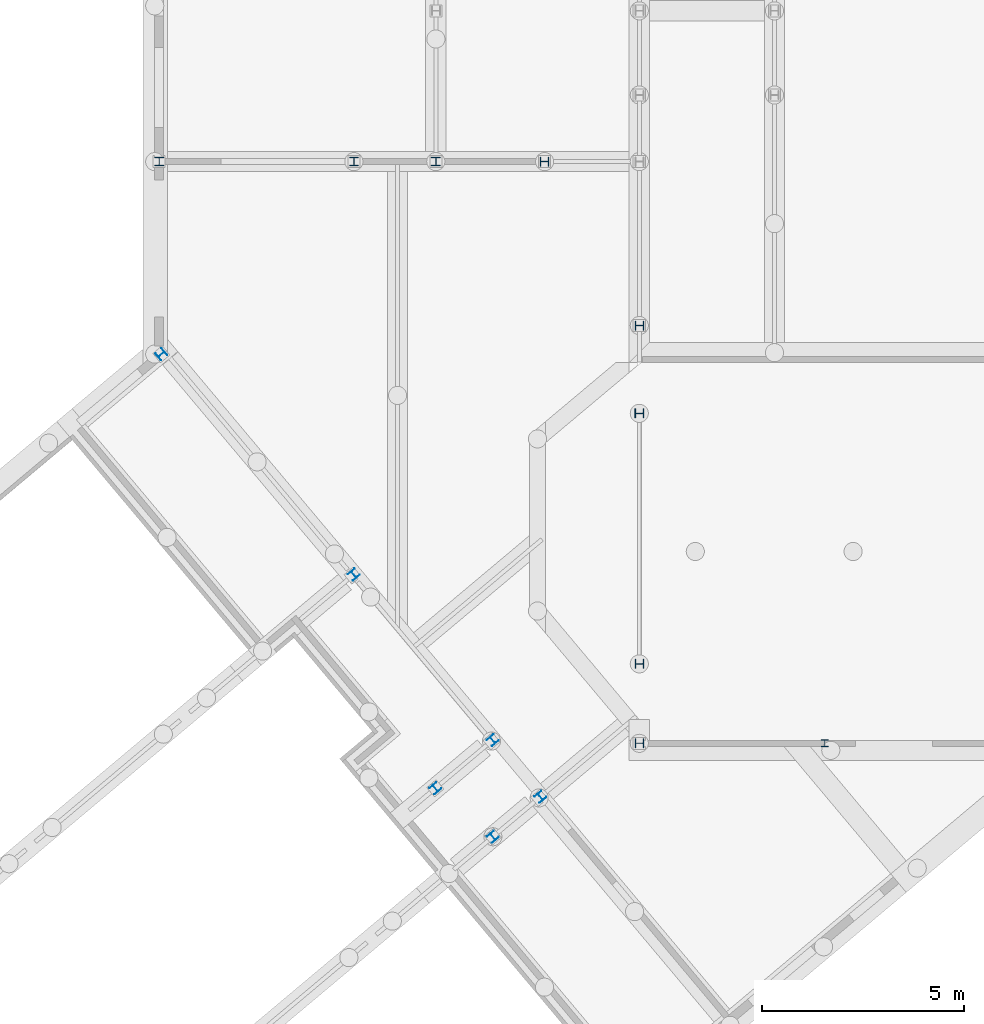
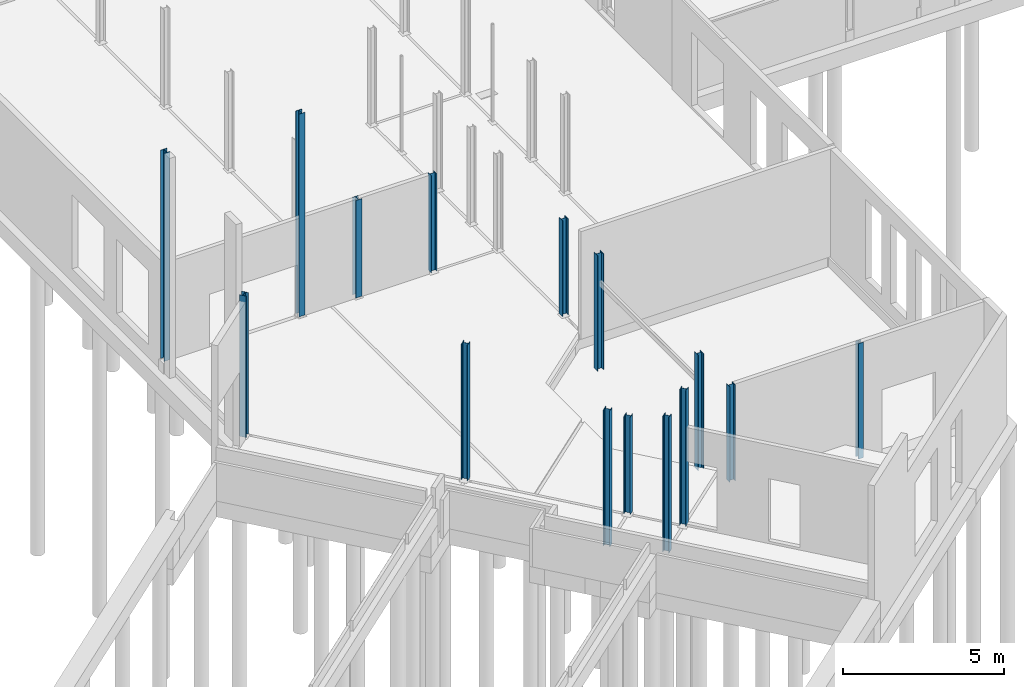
# One storey, part 2 of 18: 15 columns.
"""IFC2X3 building model written with IfcOpenShell, lengths in millimetres."""

import ifcopenshell
import ifcopenshell.guid

model = None  # the IFC model being written
_history = None  # IfcOwnerHistory: only IFC2X3 demands one
_inside = {}  # id of a spatial element -> (the spatial element, [elements in it])
_under = {}  # id of a project, library or spatial element -> (it, [spatial elements below it])
_declared = {}  # id of a project -> (the project, [libraries it declares])
_typed = {}  # id of a type object -> (the type object, [elements of that type])
_made_of = {}  # id of a material, layer set ... -> (it, [elements and type objects made of it])


def new_model(schema):
    """Start an empty IFC model of exactly this schema.

    Asked for "IFC4X3", IfcOpenShell would pick the latest addendum, in which some entities
    have other attributes; the version numbers below select the first issue.
    IFC2X3 requires an IfcOwnerHistory on every rooted entity: one is made here for all.
    """
    global model, _history
    if schema == "IFC4X3":
        model = ifcopenshell.file(schema_version=(4, 3, 0, 0))
    else:
        model = ifcopenshell.file(schema=schema)
    _inside.clear()
    _under.clear()
    _declared.clear()
    _typed.clear()
    _made_of.clear()
    _history = None
    if model.schema == "IFC2X3":
        org = make("IfcOrganization", Name="unknown")
        user = make(
            "IfcPersonAndOrganization",
            ThePerson=make("IfcPerson", FamilyName="unknown"),
            TheOrganization=org,
        )
        app = make(
            "IfcApplication",
            ApplicationDeveloper=org,
            Version="unknown",
            ApplicationFullName="unknown",
            ApplicationIdentifier="unknown",
        )
        _history = make(
            "IfcOwnerHistory",
            OwningUser=user,
            OwningApplication=app,
            ChangeAction="ADDED",
            CreationDate=0,
        )
    return model


def make(cls, **values):
    """One entity of the class cls with the attributes given. An attribute that is None is left unset."""
    return model.create_entity(
        cls, **{name: value for name, value in values.items() if value is not None}
    )


def entity(cls, *values):
    """Any entity or typed value of the class cls, its attributes in the order of the schema. None: left unset."""
    e = model.create_entity(cls)
    for i, value in enumerate(values):
        if value is not None:
            e[i] = value
    return e


def rooted(cls, **values):
    """An entity with a GlobalId (a new one), such as an element, a storey or a relation."""
    return make(cls, GlobalId=ifcopenshell.guid.new(), OwnerHistory=_history, **values)


def si_unit(unit_type, name, prefix=None):
    """IfcSIUnit, for example si_unit("LENGTHUNIT", "METRE", prefix="MILLI")."""
    return make("IfcSIUnit", UnitType=unit_type, Prefix=prefix, Name=name)


def converted_unit(unit_type, name, factor, base, dimensions=None, offset=None):
    """IfcConversionBasedUnit, such as the inch: factor (a typed value) times the base unit."""
    return make(
        "IfcConversionBasedUnit"
        if offset is None
        else "IfcConversionBasedUnitWithOffset",
        ConversionOffset=offset,
        Dimensions=None
        if dimensions is None
        else entity("IfcDimensionalExponents", *dimensions),
        UnitType=unit_type,
        Name=name,
        ConversionFactor=make(
            "IfcMeasureWithUnit", ValueComponent=factor, UnitComponent=base
        ),
    )


def derived_unit(unit_type, elements):
    """IfcDerivedUnit: a product of units, each with its exponent."""
    return make(
        "IfcDerivedUnit",
        Elements=[
            make("IfcDerivedUnitElement", Unit=unit, Exponent=power)
            for unit, power in elements
        ],
        UnitType=unit_type,
    )


def assignment(units):
    """IfcUnitAssignment: the units of a project."""
    return None if units is None else make("IfcUnitAssignment", Units=units)


def point(xyz):
    """IfcCartesianPoint."""
    return None if xyz is None else make("IfcCartesianPoint", Coordinates=xyz)


def direction(xyz):
    """IfcDirection."""
    return None if xyz is None else make("IfcDirection", DirectionRatios=xyz)


def frame(location, z_axis=None, x_axis=None):
    """IfcAxis2Placement3D, a coordinate frame: its origin and axes. An axis left out is left unset."""
    return make(
        "IfcAxis2Placement3D",
        Location=point(location),
        Axis=direction(z_axis),
        RefDirection=direction(x_axis),
    )


def frame_2d(location, x_axis=None):
    """IfcAxis2Placement2D, a coordinate frame in the plane: its origin and x axis."""
    return make(
        "IfcAxis2Placement2D", Location=point(location), RefDirection=direction(x_axis)
    )


def origin():
    """The frame at (0, 0, 0) with its axes left unset."""
    return frame((0.0, 0.0, 0.0))


def place(relative_to, where):
    """IfcLocalPlacement: puts the frame where relative to a parent placement (None: the world)."""
    return make(
        "IfcLocalPlacement", PlacementRelTo=relative_to, RelativePlacement=where
    )


def context(
    kind, dimensions, precision=None, world=None, true_north=None, identifier=None
):
    """IfcGeometricRepresentationContext, for example the 3D "Model" context."""
    return make(
        "IfcGeometricRepresentationContext",
        ContextIdentifier=identifier,
        ContextType=kind,
        CoordinateSpaceDimension=dimensions,
        Precision=precision,
        WorldCoordinateSystem=world,
        TrueNorth=true_north,
    )


def subcontext(parent, identifier, kind, view, scale=None):
    """IfcGeometricRepresentationSubContext, for example "Body" below "Model"."""
    return make(
        "IfcGeometricRepresentationSubContext",
        ContextIdentifier=identifier,
        ContextType=kind,
        ParentContext=parent,
        TargetScale=scale,
        TargetView=view,
    )


def project(units=None, contexts=None):
    """IfcProject with its units and contexts."""
    return rooted(
        "IfcProject",
        Name="project",
        RepresentationContexts=contexts,
        UnitsInContext=assignment(units),
    )


def spatial(cls, under=None, at=None, **own):
    """A site, building, storey or space (cls), placed at a placement, below another one or the project."""
    s = rooted(cls, ObjectPlacement=at, **own)
    if under is not None:
        _under.setdefault(under.id(), (under, []))[1].append(s)
    return s


def polyline(points):
    """IfcPolyline through the points."""
    return make("IfcPolyline", Points=[point(p) for p in points])


def circle_curve(where, radius):
    """IfcCircle in the frame where."""
    return make("IfcCircle", Position=where, Radius=radius)


def parameter(value):
    """IfcParameterValue: where a trimmed curve begins or ends, as a parameter of its basis curve."""
    return model.create_entity("IfcParameterValue", value)


def trimmed(basis, trim1, trim2, sense, master):
    """IfcTrimmedCurve: the piece of a basis curve between two trims."""
    return make(
        "IfcTrimmedCurve",
        BasisCurve=basis,
        Trim1=trim1,
        Trim2=trim2,
        SenseAgreement=sense,
        MasterRepresentation=master,
    )


def segment(curve, same_sense, transition):
    """IfcCompositeCurveSegment."""
    return make(
        "IfcCompositeCurveSegment",
        Transition=transition,
        SameSense=same_sense,
        ParentCurve=curve,
    )


def composite_curve(segments, self_intersect=None):
    """IfcCompositeCurve: segments joined end to end."""
    return make("IfcCompositeCurve", Segments=segments, SelfIntersect=self_intersect)


def profile(cls, at=None, kind="AREA", **sizes):
    """A parametric profile (cls). Its sizes go by their IFC names, for example OverallWidth=200.0."""
    return make(cls, ProfileType=kind, Position=at, **sizes)


def i_section(**sizes):
    """IfcIShapeProfileDef."""
    return profile("IfcIShapeProfileDef", **sizes)


def outline(outer, holes=None, kind="AREA"):
    """IfcArbitraryClosedProfileDef: a profile drawn as a closed curve; with holes, ...WithVoids."""
    if holes is None:
        return make("IfcArbitraryClosedProfileDef", ProfileType=kind, OuterCurve=outer)
    return make(
        "IfcArbitraryProfileDefWithVoids",
        ProfileType=kind,
        OuterCurve=outer,
        InnerCurves=holes,
    )


def extrude(swept, where, along, depth):
    """IfcExtrudedAreaSolid: the profile swept, set in the frame where, extruded along a direction by depth."""
    return make(
        "IfcExtrudedAreaSolid",
        SweptArea=swept,
        Position=where,
        ExtrudedDirection=direction(along),
        Depth=depth,
    )


def shape(context_of_items, identifier, shape_type, items):
    """IfcShapeRepresentation: the items that make up one representation, for example the "Body"."""
    return make(
        "IfcShapeRepresentation",
        ContextOfItems=context_of_items,
        RepresentationIdentifier=identifier,
        RepresentationType=shape_type,
        Items=items,
    )


def source(mapping_origin, context_of_items, identifier, shape_type, items):
    """IfcRepresentationMap: a shape defined once, which mapped items show again and again."""
    return make(
        "IfcRepresentationMap",
        MappingOrigin=mapping_origin,
        MappedRepresentation=shape(context_of_items, identifier, shape_type, items),
    )


def transform(
    local_origin,
    x_axis=None,
    y_axis=None,
    z_axis=None,
    scale=None,
    scale2=None,
    scale3=None,
    uniform=True,
):
    """IfcCartesianTransformationOperator3D, or its non-uniform kind. x_axis, y_axis, z_axis: its Axis1, 2, 3."""
    if uniform:
        return make(
            "IfcCartesianTransformationOperator3D",
            Axis1=direction(x_axis),
            Axis2=direction(y_axis),
            LocalOrigin=point(local_origin),
            Scale=scale,
            Axis3=direction(z_axis),
        )
    return make(
        "IfcCartesianTransformationOperator3DnonUniform",
        Axis1=direction(x_axis),
        Axis2=direction(y_axis),
        LocalOrigin=point(local_origin),
        Scale=scale,
        Axis3=direction(z_axis),
        Scale2=scale2,
        Scale3=scale3,
    )


def mapped(mapping_source, mapping_target):
    """IfcMappedItem: shows the shape of a source again, moved by a transform."""
    return make(
        "IfcMappedItem", MappingSource=mapping_source, MappingTarget=mapping_target
    )


def material(Name=None, Category=None):
    """IfcMaterial."""
    return make("IfcMaterial", Name=Name, Category=Category)


def material_list(materials):
    """IfcMaterialList."""
    return make("IfcMaterialList", Materials=materials)


def made_of(thing, what):
    """Note that an element or type object is made of a material, layer set ...; save() writes the relation."""
    if what is not None:
        _made_of.setdefault(what.id(), (what, []))[1].append(thing)
    return thing


def type_object(cls, material=None, **own):
    """A type object (cls), such as IfcWallType, which elements share."""
    return made_of(rooted(cls, **own), material)


def type_shapes(of_type, sources):
    """Give a type object the sources (RepresentationMaps) that its elements show as mapped items."""
    of_type.RepresentationMaps = sources


def element(
    cls,
    number,
    at=None,
    inside=None,
    cuts=None,
    type_object=None,
    material=None,
    context=None,
    identifier="Body",
    shape_type=None,
    held_by="IfcProductDefinitionShape",
    body=None,
    shapes=None,
    **own,
):
    """One element of the class cls, such as IfcWall. Its Tag is "e" and its number.

    at: its placement. inside: the storey or other place that contains it. cuts: it is an
    opening in that element (IfcRelVoidsElement). A single representation is given by context,
    identifier, shape_type and body (its items); several are given by shapes. held_by: the class
    of the entity that holds the representations. save() writes the other relations.
    """
    e = rooted(cls, Tag="e%d" % number, ObjectPlacement=at, **own)
    if body is not None:
        shapes = [shape(context, identifier, shape_type, body)]
    if shapes is not None:
        e.Representation = make(held_by, Representations=shapes)
    if inside is not None:
        _inside.setdefault(inside.id(), (inside, []))[1].append(e)
    if cuts is not None:
        rooted(
            "IfcRelVoidsElement", RelatingBuildingElement=cuts, RelatedOpeningElement=e
        )
    if type_object is not None:
        _typed.setdefault(type_object.id(), (type_object, []))[1].append(e)
    return made_of(e, material)


def aggregate(whole, parts):
    """IfcRelAggregates: a whole, such as a stair, and the parts it consists of."""
    return rooted("IfcRelAggregates", RelatingObject=whole, RelatedObjects=parts)


def save(model, path):
    """Write the relations noted so far, then the file.

    IfcRelAggregates (storeys below a building ...), IfcRelContainedInSpatialStructure (elements
    in a storey), IfcRelDefinesByType, IfcRelAssociatesMaterial and IfcRelDeclares: one each for
    every whole, place, type object, material and project.
    """
    for whole, parts in _under.values():
        aggregate(whole, parts)
    for where, things in _inside.values():
        rooted(
            "IfcRelContainedInSpatialStructure",
            RelatedElements=things,
            RelatingStructure=where,
        )
    for kind, things in _typed.values():
        rooted("IfcRelDefinesByType", RelatedObjects=things, RelatingType=kind)
    for what, things in _made_of.values():
        rooted("IfcRelAssociatesMaterial", RelatedObjects=things, RelatingMaterial=what)
    for by, libraries in _declared.values():
        rooted("IfcRelDeclares", RelatingContext=by, RelatedDefinitions=libraries)
    model.write(path)


model = new_model("IFC2X3")

# Units and contexts
model_context = context("Model", 3, precision=0.01, world=origin(), true_north=direction((6.12303176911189e-17, 1.0)))
body_context = subcontext(model_context, "Body", "Model", "MODEL_VIEW")
ifc_project = project(units=[si_unit("LENGTHUNIT", "METRE", prefix="MILLI"), si_unit("AREAUNIT", "SQUARE_METRE"), si_unit("VOLUMEUNIT", "CUBIC_METRE"), converted_unit("PLANEANGLEUNIT", "DEGREE", entity("IfcRatioMeasure", 0.0174532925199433), si_unit("PLANEANGLEUNIT", "RADIAN"), dimensions=[0, 0, 0, 0, 0, 0, 0]), si_unit("MASSUNIT", "GRAM", prefix="KILO"), derived_unit("MASSDENSITYUNIT", [(si_unit("MASSUNIT", "GRAM", prefix="KILO"), 1), (si_unit("LENGTHUNIT", "METRE"), -3)]), derived_unit("MOMENTOFINERTIAUNIT", [(si_unit("LENGTHUNIT", "METRE"), 4)]), si_unit("TIMEUNIT", "SECOND"), si_unit("FREQUENCYUNIT", "HERTZ"), si_unit("THERMODYNAMICTEMPERATUREUNIT", "DEGREE_CELSIUS"), derived_unit("THERMALTRANSMITTANCEUNIT", [(si_unit("MASSUNIT", "GRAM", prefix="KILO"), 1), (si_unit("THERMODYNAMICTEMPERATUREUNIT", "KELVIN"), -1), (si_unit("TIMEUNIT", "SECOND"), -3)]), derived_unit("VOLUMETRICFLOWRATEUNIT", [(si_unit("LENGTHUNIT", "METRE"), 3), (si_unit("TIMEUNIT", "SECOND"), -1)]), si_unit("ELECTRICCURRENTUNIT", "AMPERE"), si_unit("ELECTRICVOLTAGEUNIT", "VOLT"), si_unit("POWERUNIT", "WATT"), si_unit("FORCEUNIT", "NEWTON", prefix="KILO"), si_unit("ILLUMINANCEUNIT", "LUX"), si_unit("LUMINOUSFLUXUNIT", "LUMEN"), si_unit("LUMINOUSINTENSITYUNIT", "CANDELA"), derived_unit("USERDEFINED", [(si_unit("MASSUNIT", "GRAM", prefix="KILO"), -1), (si_unit("LENGTHUNIT", "METRE"), -2), (si_unit("TIMEUNIT", "SECOND"), 3), (si_unit("LUMINOUSFLUXUNIT", "LUMEN"), 1)]), derived_unit("LINEARVELOCITYUNIT", [(si_unit("LENGTHUNIT", "METRE"), 1), (si_unit("TIMEUNIT", "SECOND"), -1)]), si_unit("PRESSUREUNIT", "PASCAL"), derived_unit("USERDEFINED", [(si_unit("LENGTHUNIT", "METRE"), -2), (si_unit("MASSUNIT", "GRAM", prefix="KILO"), 1), (si_unit("TIMEUNIT", "SECOND"), -2)]), derived_unit("LINEARFORCEUNIT", [(si_unit("MASSUNIT", "GRAM", prefix="KILO"), 1), (si_unit("LENGTHUNIT", "METRE"), 1), (si_unit("TIMEUNIT", "SECOND"), -2), (si_unit("LENGTHUNIT", "METRE"), -1)]), derived_unit("PLANARFORCEUNIT", [(si_unit("MASSUNIT", "GRAM", prefix="KILO"), 1), (si_unit("LENGTHUNIT", "METRE"), 1), (si_unit("TIMEUNIT", "SECOND"), -2), (si_unit("LENGTHUNIT", "METRE"), -2)])], contexts=[model_context])

# Site, building, storey
site_placement = place(None, origin())
site = spatial("IfcSite", under=ifc_project, at=site_placement, Name="Default", CompositionType="ELEMENT")
building_placement = place(site_placement, origin())
building = spatial("IfcBuilding", under=site, at=building_placement, CompositionType="ELEMENT")
storey_placement = place(building_placement, frame((0.0, 0.0, -1085.0)))
storey = spatial("IfcBuildingStorey", under=building, at=storey_placement, Name="-00 fundatie", CompositionType="ELEMENT", Elevation=-1085.0)

# Columns
ifc_material_1 = material(Name="h2_staal")
column_type_1 = type_object("IfcColumnType", Name="BERSnl_28_SCO_TLB_kolom hea_gen_ISR:kolom gen hea220", PredefinedType="COLUMN", material=ifc_material_1)
shared_shape_1 = source(origin(), body_context, "Body", "SweptSolid", [
    extrude(outline(composite_curve([segment(polyline([(94.0, -110.0), (105.0, -110.0)]), True, "CONTINUOUS"), segment(polyline([(105.0, -110.0), (105.0, 110.0)]), True, "CONTINUOUS"), segment(polyline([(105.0, 110.0), (94.0, 110.0)]), True, "CONTINUOUS"), segment(polyline([(94.0, 110.0), (94.0, 21.5000000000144)]), True, "CONTINUOUS"), segment(trimmed(circle_curve(frame_2d((76.0, 21.5000000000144), x_axis=(1.0, 0.0)), 18.0), [parameter(270.0)], [parameter(0.0)], True, "PARAMETER"), False, "CONTINUOUS"), segment(polyline([(76.0, 3.50000000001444), (-76.0, 3.50000000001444)]), True, "CONTINUOUS"), segment(trimmed(circle_curve(frame_2d((-76.0, 21.5000000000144), x_axis=(0.0, -1.0)), 18.0), [parameter(270.0)], [parameter(0.0)], True, "PARAMETER"), False, "CONTINUOUS"), segment(polyline([(-94.0, 21.5000000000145), (-94.0, 110.0)]), True, "CONTINUOUS"), segment(polyline([(-94.0, 110.0), (-105.0, 110.0)]), True, "CONTINUOUS"), segment(polyline([(-105.0, 110.0), (-105.0, -110.0)]), True, "CONTINUOUS"), segment(polyline([(-105.0, -110.0), (-94.0, -110.0)]), True, "CONTINUOUS"), segment(polyline([(-94.0, -110.0), (-94.0, -21.5000000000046)]), True, "CONTINUOUS"), segment(trimmed(circle_curve(frame_2d((-76.0, -21.5000000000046), x_axis=(-1.0, 0.0)), 18.0), [parameter(269.999999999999)], [parameter(0.0)], True, "PARAMETER"), False, "CONTINUOUS"), segment(polyline([(-76.0, -3.50000000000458), (76.0, -3.50000000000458)]), True, "CONTINUOUS"), segment(trimmed(circle_curve(frame_2d((76.0, -21.5000000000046), x_axis=(0.0, 1.0)), 18.0), [parameter(270.0)], [parameter(0.0)], True, "PARAMETER"), False, "CONTINUOUS"), segment(polyline([(94.0, -21.5000000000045), (94.0, -110.0)]), True, "CONTINUOUS")], self_intersect=False)), frame((0.0, 0.0, -50.0), z_axis=(0.0, 0.0, 1.0), x_axis=(0.0, -1.0, 0.0)), (0.0, 0.0, 1.0), 3685.0),
])
type_shapes(column_type_1, [shared_shape_1])
column_1_placement = place(storey_placement, frame((20569.4349765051, 16182.2966282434, 1085.0), z_axis=(0.0, 0.0, 1.0), x_axis=(-1.0, 0.0, 0.0)))
element("IfcColumn", 1, at=column_1_placement, inside=storey, type_object=column_type_1, Name="BERSnl_28_SCO_TLB_kolom hea_gen_ISR:kolom gen hea220", ObjectType="BERSnl_28_SCO_TLB_kolom hea_gen_ISR:kolom gen hea220", context=body_context, shape_type="MappedRepresentation", body=[
    mapped(shared_shape_1, transform((0.0, 0.0, 0.0), scale=1.0)),
])
column_type_2 = type_object("IfcColumnType", Name="BERSnl_28_SCO_TLB_kolom hea_gen_ISR:kolom gen hea220", PredefinedType="COLUMN", material=ifc_material_1)
shared_shape_2 = source(origin(), body_context, "Body", "SweptSolid", [
    extrude(outline(composite_curve([segment(polyline([(94.0, -110.0), (105.0, -110.0)]), True, "CONTINUOUS"), segment(polyline([(105.0, -110.0), (105.0, 110.0)]), True, "CONTINUOUS"), segment(polyline([(105.0, 110.0), (94.0, 110.0)]), True, "CONTINUOUS"), segment(polyline([(94.0, 110.0), (94.0, 21.5000000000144)]), True, "CONTINUOUS"), segment(trimmed(circle_curve(frame_2d((76.0, 21.5000000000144), x_axis=(1.0, 0.0)), 18.0), [parameter(270.0)], [parameter(0.0)], True, "PARAMETER"), False, "CONTINUOUS"), segment(polyline([(76.0, 3.50000000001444), (-76.0, 3.50000000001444)]), True, "CONTINUOUS"), segment(trimmed(circle_curve(frame_2d((-76.0, 21.5000000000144), x_axis=(0.0, -1.0)), 18.0), [parameter(270.0)], [parameter(0.0)], True, "PARAMETER"), False, "CONTINUOUS"), segment(polyline([(-94.0, 21.5000000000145), (-94.0, 110.0)]), True, "CONTINUOUS"), segment(polyline([(-94.0, 110.0), (-105.0, 110.0)]), True, "CONTINUOUS"), segment(polyline([(-105.0, 110.0), (-105.0, -110.0)]), True, "CONTINUOUS"), segment(polyline([(-105.0, -110.0), (-94.0, -110.0)]), True, "CONTINUOUS"), segment(polyline([(-94.0, -110.0), (-94.0, -21.5000000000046)]), True, "CONTINUOUS"), segment(trimmed(circle_curve(frame_2d((-76.0, -21.5000000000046), x_axis=(-1.0, 0.0)), 18.0), [parameter(269.999999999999)], [parameter(0.0)], True, "PARAMETER"), False, "CONTINUOUS"), segment(polyline([(-76.0, -3.50000000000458), (76.0, -3.50000000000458)]), True, "CONTINUOUS"), segment(trimmed(circle_curve(frame_2d((76.0, -21.5000000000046), x_axis=(0.0, 1.0)), 18.0), [parameter(270.0)], [parameter(0.0)], True, "PARAMETER"), False, "CONTINUOUS"), segment(polyline([(94.0, -21.5000000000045), (94.0, -110.0)]), True, "CONTINUOUS")], self_intersect=False)), frame((0.0, 0.0, -50.0), z_axis=(0.0, 0.0, 1.0), x_axis=(0.0, -1.0, 0.0)), (0.0, 0.0, 1.0), 7875.0),
])
type_shapes(column_type_2, [shared_shape_2])
column_2_placement = place(storey_placement, frame((13705.4349765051, 16182.2966282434, 1085.0), z_axis=(0.0, 0.0, 1.0), x_axis=(-1.0, 0.0, 0.0)))
element("IfcColumn", 2, at=column_2_placement, inside=storey, type_object=column_type_2, Name="BERSnl_28_SCO_TLB_kolom hea_gen_ISR:kolom gen hea220", ObjectType="BERSnl_28_SCO_TLB_kolom hea_gen_ISR:kolom gen hea220", context=body_context, shape_type="MappedRepresentation", body=[
    mapped(shared_shape_2, transform((0.0, 0.0, 0.0), scale=1.0)),
])
column_type_3 = type_object("IfcColumnType", Name="BERSnl_28_SCO_TLB_kolom hea_gen_ISR:kolom gen hea220", PredefinedType="COLUMN", material=ifc_material_1)
shared_shape_3 = source(origin(), body_context, "Body", "SweptSolid", [
    extrude(i_section(OverallWidth=220.0, OverallDepth=210.0, WebThickness=7.00000000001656, FlangeThickness=11.0000000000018, FilletRadius=18.0000000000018, at=frame_2d((7.57438556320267e-12, -2.1600499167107e-12), x_axis=(1.0, 0.0))), frame((23265.4349765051, 16182.2966282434, -50.0), z_axis=(0.0, 0.0, 1.0), x_axis=(0.0, -1.0, 0.0)), (0.0, 0.0, 1.0), 3685.0),
])
type_shapes(column_type_3, [shared_shape_3])
column_3_placement = place(storey_placement, frame((0.0, 0.0, 1085.0)))
element("IfcColumn", 3, at=column_3_placement, inside=storey, type_object=column_type_3, Name="BERSnl_28_SCO_TLB_kolom hea_gen_ISR:kolom gen hea220", ObjectType="BERSnl_28_SCO_TLB_kolom hea_gen_ISR:kolom gen hea220", context=body_context, shape_type="MappedRepresentation", body=[
    mapped(shared_shape_3, transform((0.0, 0.0, 0.0), scale=1.0)),
])
column_type_4 = type_object("IfcColumnType", Name="BERSnl_28_SCO_TLB_kolom hea_gen_ISR:kolom gen hea220", PredefinedType="COLUMN", material=ifc_material_1)
shared_shape_4 = source(origin(), body_context, "Body", "SweptSolid", [
    extrude(i_section(OverallWidth=220.0, OverallDepth=210.0, WebThickness=7.00000000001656, FlangeThickness=11.0000000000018, FilletRadius=18.0000000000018, at=frame_2d((7.57438556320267e-12, -2.1600499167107e-12), x_axis=(1.0, 0.0))), frame((25615.4349765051, 12114.0621216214, -50.0), z_axis=(0.0, 0.0, 1.0), x_axis=(0.0, -1.0, 0.0)), (0.0, 0.0, 1.0), 3625.0),
])
type_shapes(column_type_4, [shared_shape_4])
column_4_placement = place(storey_placement, frame((0.0, 0.0, 1085.0)))
element("IfcColumn", 4, at=column_4_placement, inside=storey, type_object=column_type_4, Name="BERSnl_28_SCO_TLB_kolom hea_gen_ISR:kolom gen hea220", ObjectType="BERSnl_28_SCO_TLB_kolom hea_gen_ISR:kolom gen hea220", context=body_context, shape_type="MappedRepresentation", body=[
    mapped(shared_shape_4, transform((0.0, 0.0, 0.0), scale=1.0)),
])
column_type_5 = type_object("IfcColumnType", Name="BERSnl_28_SCO_TLB_kolom heb_gen_ISR:kolom gen heb220", PredefinedType="COLUMN", material=ifc_material_1)
shared_shape_5 = source(origin(), body_context, "Body", "SweptSolid", [
    extrude(i_section(OverallWidth=220.0, OverallDepth=220.000000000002, WebThickness=9.500000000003, FlangeThickness=16.0000000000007, FilletRadius=18.0000000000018, at=frame_2d((3.24718030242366e-12, -4.32720526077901e-12), x_axis=(1.0, 0.0))), frame((25615.4349765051, 9937.2966282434, -795.0), z_axis=(0.0, 0.0, 1.0), x_axis=(0.0, -1.0, 0.0)), (0.0, 0.0, 1.0), 4370.0),
])
type_shapes(column_type_5, [shared_shape_5])
column_5_placement = place(storey_placement, frame((0.0, 0.0, 1085.0)))
element("IfcColumn", 5, at=column_5_placement, inside=storey, type_object=column_type_5, Name="BERSnl_28_SCO_TLB_kolom heb_gen_ISR:kolom gen heb220", ObjectType="BERSnl_28_SCO_TLB_kolom heb_gen_ISR:kolom gen heb220", context=body_context, shape_type="MappedRepresentation", body=[
    mapped(shared_shape_5, transform((0.0, 0.0, 0.0), scale=1.0)),
])
column_type_6 = type_object("IfcColumnType", Name="BERSnl_28_SCO_TLB_kolom hea_gen_ISR:kolom gen hea220", PredefinedType="COLUMN", material=ifc_material_1)
shared_shape_6 = source(origin(), body_context, "Body", "SweptSolid", [
    extrude(i_section(OverallWidth=220.0, OverallDepth=210.0, WebThickness=7.00000000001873, FlangeThickness=11.0000000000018, FilletRadius=18.0000000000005, at=frame_2d((4.87432316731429e-12, -2.1600499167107e-12), x_axis=(1.0, 0.0))), frame((25615.4349765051, 3722.29662827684, -795.0), z_axis=(0.0, 0.0, 1.0), x_axis=(0.0, -1.0, 0.0)), (0.0, 0.0, 1.0), 4370.0),
])
type_shapes(column_type_6, [shared_shape_6])
column_6_placement = place(storey_placement, frame((0.0, 0.0, 1085.0)))
element("IfcColumn", 6, at=column_6_placement, inside=storey, type_object=column_type_6, Name="BERSnl_28_SCO_TLB_kolom hea_gen_ISR:kolom gen hea220", ObjectType="BERSnl_28_SCO_TLB_kolom hea_gen_ISR:kolom gen hea220", context=body_context, shape_type="MappedRepresentation", body=[
    mapped(shared_shape_6, transform((0.0, 0.0, 0.0), scale=1.0)),
])
column_type_7 = type_object("IfcColumnType", Name="BERSnl_28_SCO_TLB_kolom hea_gen_ISR:kolom gen hea220", PredefinedType="COLUMN", material=ifc_material_1)
shared_shape_7 = source(origin(), body_context, "Body", "SweptSolid", [
    extrude(i_section(OverallWidth=220.0, OverallDepth=210.0, WebThickness=7.00000000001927, FlangeThickness=11.0000000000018, FilletRadius=18.0, at=frame_2d((5.27933252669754e-12, -2.1600499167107e-12), x_axis=(1.0, 0.0))), frame((25615.4349765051, 1752.29662827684, -50.0), z_axis=(0.0, 0.0, 1.0), x_axis=(0.0, -1.0, 0.0)), (0.0, 0.0, 1.0), 3625.0),
])
type_shapes(column_type_7, [shared_shape_7])
column_7_placement = place(storey_placement, frame((0.0, 0.0, 1085.0)))
element("IfcColumn", 7, at=column_7_placement, inside=storey, type_object=column_type_7, Name="BERSnl_28_SCO_TLB_kolom hea_gen_ISR:kolom gen hea220", ObjectType="BERSnl_28_SCO_TLB_kolom hea_gen_ISR:kolom gen hea220", context=body_context, shape_type="MappedRepresentation", body=[
    mapped(shared_shape_7, transform((0.0, 0.0, 0.0), scale=1.0)),
])
ifc_material_2 = material(Name="<Unnamed>")
ifc_material_3 = material(Name="00_Staal_generiek")
ifc_material_list_1 = material_list([ifc_material_2, ifc_material_3])
column_type_8 = type_object("IfcColumnType", Name="BERSnl_28_SCO_TLB_kolom hea_gen_ISR:kolom gen hea220", PredefinedType="COLUMN", material=ifc_material_list_1)
shared_shape_8 = source(origin(), body_context, "Body", "SweptSolid", [
    extrude(i_section(OverallWidth=219.999999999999, OverallDepth=210.000000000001, WebThickness=7.00000000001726, FlangeThickness=11.0000000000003, FilletRadius=17.9999999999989, at=frame_2d((1.30739863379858e-12, 1.55608859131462e-12), x_axis=(1.0, 0.0))), frame((23161.8384718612, 423.160633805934, -50.0), z_axis=(0.0, 0.0, 1.0), x_axis=(0.76604444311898, 0.642787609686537, 0.0)), (0.0, 0.0, 1.0), 5134.5),
])
type_shapes(column_type_8, [shared_shape_8])
column_8_placement = place(storey_placement, frame((0.0, 0.0, 1085.0)))
element("IfcColumn", 8, at=column_8_placement, inside=storey, type_object=column_type_8, Name="BERSnl_28_SCO_TLB_kolom hea_gen_ISR:kolom gen hea220", ObjectType="BERSnl_28_SCO_TLB_kolom hea_gen_ISR:kolom gen hea220", context=body_context, shape_type="MappedRepresentation", body=[
    mapped(shared_shape_8, transform((0.0, 0.0, 0.0), scale=1.0)),
])
ifc_material_list_2 = material_list([ifc_material_2, ifc_material_3])
column_type_9 = type_object("IfcColumnType", Name="BERSnl_28_SCO_TLB_kolom hea_gen_ISR:kolom gen hea220", PredefinedType="COLUMN", material=ifc_material_list_2)
shared_shape_9 = source(origin(), body_context, "Body", "SweptSolid", [
    extrude(i_section(OverallWidth=219.999999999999, OverallDepth=210.000000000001, WebThickness=7.00000000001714, FlangeThickness=11.0000000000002, FilletRadius=17.9999999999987, at=frame_2d((7.90123522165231e-12, -4.06430444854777e-12), x_axis=(1.0, 0.0))), frame((21983.3329387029, -566.137983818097, -50.0), z_axis=(0.0, 0.0, 1.0), x_axis=(0.766044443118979, 0.642787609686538, 0.0)), (0.0, 0.0, 1.0), 5134.5),
])
type_shapes(column_type_9, [shared_shape_9])
column_9_placement = place(storey_placement, frame((0.0, 0.0, 1085.0)))
element("IfcColumn", 9, at=column_9_placement, inside=storey, type_object=column_type_9, Name="BERSnl_28_SCO_TLB_kolom hea_gen_ISR:kolom gen hea220", ObjectType="BERSnl_28_SCO_TLB_kolom hea_gen_ISR:kolom gen hea220", context=body_context, shape_type="MappedRepresentation", body=[
    mapped(shared_shape_9, transform((0.0, 0.0, 0.0), scale=1.0)),
])
ifc_material_list_3 = material_list([ifc_material_2, ifc_material_3])
column_type_10 = type_object("IfcColumnType", Name="BERSnl_28_SCO_TLB_kolom hea_gen_ISR:kolom gen hea220", PredefinedType="COLUMN", material=ifc_material_list_3)
shared_shape_10 = source(origin(), body_context, "Body", "SweptSolid", [
    extrude(i_section(OverallWidth=219.999999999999, OverallDepth=210.000000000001, WebThickness=7.00000000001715, FlangeThickness=11.0000000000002, FilletRadius=17.999999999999, at=frame_2d((4.66826577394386e-12, -1.17239551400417e-12), x_axis=(1.0, 0.0))), frame((20556.0319054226, 635.530566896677, -50.0), z_axis=(0.0, 0.0, 1.0), x_axis=(0.766044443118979, 0.642787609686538, 0.0)), (0.0, 0.0, 1.0), 5150.0),
])
type_shapes(column_type_10, [shared_shape_10])
column_10_placement = place(storey_placement, frame((0.0, 0.0, 1085.0)))
element("IfcColumn", 10, at=column_10_placement, inside=storey, type_object=column_type_10, Name="BERSnl_28_SCO_TLB_kolom hea_gen_ISR:kolom gen hea220", ObjectType="BERSnl_28_SCO_TLB_kolom hea_gen_ISR:kolom gen hea220", context=body_context, shape_type="MappedRepresentation", body=[
    mapped(shared_shape_10, transform((0.0, 0.0, 0.0), scale=1.0)),
])
ifc_material_list_4 = material_list([ifc_material_2, ifc_material_3])
column_type_11 = type_object("IfcColumnType", Name="BERSnl_28_SCO_TLB_kolom hea_gen_ISR:kolom gen hea220", PredefinedType="COLUMN", material=ifc_material_list_4)
shared_shape_11 = source(origin(), body_context, "Body", "SweptSolid", [
    extrude(i_section(OverallWidth=219.999999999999, OverallDepth=210.000000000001, WebThickness=7.00000000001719, FlangeThickness=11.0000000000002, FilletRadius=17.9999999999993, at=frame_2d((4.63273863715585e-12, -1.22923893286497e-12), x_axis=(1.0, 0.0))), frame((21980.4058142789, 1831.13724788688, -50.0), z_axis=(0.0, 0.0, 1.0), x_axis=(0.76604444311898, 0.642787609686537, 0.0)), (0.0, 0.0, 1.0), 3682.99999999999),
])
type_shapes(column_type_11, [shared_shape_11])
column_11_placement = place(storey_placement, frame((0.0, 0.0, 1085.0)))
element("IfcColumn", 11, at=column_11_placement, inside=storey, type_object=column_type_11, Name="BERSnl_28_SCO_TLB_kolom hea_gen_ISR:kolom gen hea220", ObjectType="BERSnl_28_SCO_TLB_kolom hea_gen_ISR:kolom gen hea220", context=body_context, shape_type="MappedRepresentation", body=[
    mapped(shared_shape_11, transform((0.0, 0.0, 0.0), scale=1.0)),
])
ifc_material_list_5 = material_list([ifc_material_2, ifc_material_3])
column_type_12 = type_object("IfcColumnType", Name="BERSnl_28_SCO_TLB_kolom hea_gen_ISR:kolom gen hea220", PredefinedType="COLUMN", material=ifc_material_list_5)
shared_shape_12 = source(origin(), body_context, "Body", "SweptSolid", [
    extrude(i_section(OverallWidth=220.0, OverallDepth=209.999999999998, WebThickness=7.00000000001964, FlangeThickness=11.0000000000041, FilletRadius=17.999999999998, at=frame_2d((-6.92779167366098e-12, 1.56319401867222e-13), x_axis=(1.0, 0.0))), frame((13759.7667264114, 11402.0724997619, -50.0), z_axis=(0.0, 0.0, 1.0), x_axis=(-0.642787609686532, 0.766044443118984, 0.0)), (0.0, 0.0, 1.0), 5350.0),
])
type_shapes(column_type_12, [shared_shape_12])
column_12_placement = place(storey_placement, frame((0.0, 0.0, 1085.0)))
element("IfcColumn", 12, at=column_12_placement, inside=storey, type_object=column_type_12, Name="BERSnl_28_SCO_TLB_kolom hea_gen_ISR:kolom gen hea220", ObjectType="BERSnl_28_SCO_TLB_kolom hea_gen_ISR:kolom gen hea220", context=body_context, shape_type="MappedRepresentation", body=[
    mapped(shared_shape_12, transform((0.0, 0.0, 0.0), scale=1.0)),
])
column_type_13 = type_object("IfcColumnType", Name="BERSnl_28_SCO_TLB_kolom hea_gen_ISR:kolom gen hea220", PredefinedType="COLUMN", material=ifc_material_1)
shared_shape_13 = source(origin(), body_context, "Body", "SweptSolid", [
    extrude(outline(composite_curve([segment(polyline([(94.0, -110.0), (105.0, -110.0)]), True, "CONTINUOUS"), segment(polyline([(105.0, -110.0), (105.0, 110.0)]), True, "CONTINUOUS"), segment(polyline([(105.0, 110.0), (94.0, 110.0)]), True, "CONTINUOUS"), segment(polyline([(94.0, 110.0), (94.0, 21.5000000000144)]), True, "CONTINUOUS"), segment(trimmed(circle_curve(frame_2d((76.0, 21.5000000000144), x_axis=(1.0, 0.0)), 18.0), [parameter(270.0)], [parameter(0.0)], True, "PARAMETER"), False, "CONTINUOUS"), segment(polyline([(76.0, 3.50000000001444), (-76.0, 3.50000000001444)]), True, "CONTINUOUS"), segment(trimmed(circle_curve(frame_2d((-76.0, 21.5000000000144), x_axis=(0.0, -1.0)), 18.0), [parameter(270.0)], [parameter(0.0)], True, "PARAMETER"), False, "CONTINUOUS"), segment(polyline([(-94.0, 21.5000000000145), (-94.0, 110.0)]), True, "CONTINUOUS"), segment(polyline([(-94.0, 110.0), (-105.0, 110.0)]), True, "CONTINUOUS"), segment(polyline([(-105.0, 110.0), (-105.0, -110.0)]), True, "CONTINUOUS"), segment(polyline([(-105.0, -110.0), (-94.0, -110.0)]), True, "CONTINUOUS"), segment(polyline([(-94.0, -110.0), (-94.0, -21.5000000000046)]), True, "CONTINUOUS"), segment(trimmed(circle_curve(frame_2d((-76.0, -21.5000000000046), x_axis=(-1.0, 0.0)), 18.0), [parameter(269.999999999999)], [parameter(0.0)], True, "PARAMETER"), False, "CONTINUOUS"), segment(polyline([(-76.0, -3.50000000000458), (76.0, -3.50000000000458)]), True, "CONTINUOUS"), segment(trimmed(circle_curve(frame_2d((76.0, -21.5000000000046), x_axis=(0.0, 1.0)), 18.0), [parameter(270.0)], [parameter(0.0)], True, "PARAMETER"), False, "CONTINUOUS"), segment(polyline([(94.0, -21.5000000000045), (94.0, -110.0)]), True, "CONTINUOUS")], self_intersect=False)), frame((0.0, 0.0, -50.0), z_axis=(0.0, 0.0, 1.0), x_axis=(0.0, -1.0, 0.0)), (0.0, 0.0, 1.0), 7665.0),
])
type_shapes(column_type_13, [shared_shape_13])
column_13_placement = place(storey_placement, frame((18539.7538302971, 16182.2966282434, 1085.0), z_axis=(0.0, 0.0, 1.0), x_axis=(-1.0, 0.0, 0.0)))
element("IfcColumn", 13, at=column_13_placement, inside=storey, type_object=column_type_13, Name="BERSnl_28_SCO_TLB_kolom hea_gen_ISR:kolom gen hea220", ObjectType="BERSnl_28_SCO_TLB_kolom hea_gen_ISR:kolom gen hea220", context=body_context, shape_type="MappedRepresentation", body=[
    mapped(shared_shape_13, transform((0.0, 0.0, 0.0), scale=1.0)),
])
ifc_material_list_6 = material_list([ifc_material_2, ifc_material_3])
column_type_14 = type_object("IfcColumnType", Name="BERSnl_28_SCO_TLB_kolom hea_gen_ISR:kolom gen hea220", PredefinedType="COLUMN", material=ifc_material_list_6)
shared_shape_14 = source(origin(), body_context, "Body", "SweptSolid", [
    extrude(outline(composite_curve([segment(polyline([(94.0, -110.0), (105.0, -110.0)]), True, "CONTINUOUS"), segment(polyline([(105.0, -110.0), (105.0, 110.0)]), True, "CONTINUOUS"), segment(polyline([(105.0, 110.0), (94.0, 110.0)]), True, "CONTINUOUS"), segment(polyline([(94.0, 110.0), (94.0, 21.5000000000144)]), True, "CONTINUOUS"), segment(trimmed(circle_curve(frame_2d((76.0, 21.5000000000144), x_axis=(1.0, 0.0)), 18.0), [parameter(270.0)], [parameter(0.0)], True, "PARAMETER"), False, "CONTINUOUS"), segment(polyline([(76.0, 3.50000000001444), (-76.0, 3.50000000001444)]), True, "CONTINUOUS"), segment(trimmed(circle_curve(frame_2d((-76.0, 21.5000000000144), x_axis=(0.0, -1.0)), 18.0), [parameter(270.0)], [parameter(0.0)], True, "PARAMETER"), False, "CONTINUOUS"), segment(polyline([(-94.0, 21.5000000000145), (-94.0, 110.0)]), True, "CONTINUOUS"), segment(polyline([(-94.0, 110.0), (-105.0, 110.0)]), True, "CONTINUOUS"), segment(polyline([(-105.0, 110.0), (-105.0, -110.0)]), True, "CONTINUOUS"), segment(polyline([(-105.0, -110.0), (-94.0, -110.0)]), True, "CONTINUOUS"), segment(polyline([(-94.0, -110.0), (-94.0, -21.5000000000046)]), True, "CONTINUOUS"), segment(trimmed(circle_curve(frame_2d((-76.0, -21.5000000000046), x_axis=(-1.0, 0.0)), 18.0), [parameter(269.999999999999)], [parameter(0.0)], True, "PARAMETER"), False, "CONTINUOUS"), segment(polyline([(-76.0, -3.50000000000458), (76.0, -3.50000000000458)]), True, "CONTINUOUS"), segment(trimmed(circle_curve(frame_2d((76.0, -21.5000000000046), x_axis=(0.0, 1.0)), 18.0), [parameter(270.0)], [parameter(0.0)], True, "PARAMETER"), False, "CONTINUOUS"), segment(polyline([(94.0, -21.5000000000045), (94.0, -110.0)]), True, "CONTINUOUS")], self_intersect=False)), frame((0.0, 0.0, -50.0), z_axis=(0.0, 0.0, 1.0), x_axis=(0.0, -1.0, 0.0)), (0.0, 0.0, 1.0), 5133.0),
])
type_shapes(column_type_14, [shared_shape_14])
column_14_placement = place(storey_placement, frame((18533.778651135, 5938.66755189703, 1085.0), z_axis=(0.0, 0.0, 1.0), x_axis=(0.766044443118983, 0.642787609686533, 0.0)))
element("IfcColumn", 14, at=column_14_placement, inside=storey, type_object=column_type_14, Name="BERSnl_28_SCO_TLB_kolom hea_gen_ISR:kolom gen hea220", ObjectType="BERSnl_28_SCO_TLB_kolom hea_gen_ISR:kolom gen hea220", context=body_context, shape_type="MappedRepresentation", body=[
    mapped(shared_shape_14, transform((0.0, 0.0, 0.0), scale=1.0)),
])
ifc_material_list_7 = material_list([ifc_material_2, ifc_material_3])
column_type_15 = type_object("IfcColumnType", Name="BERSnl_28_SCO_TLB_kolom hea_gen_ISR:kolom gen hea180", PredefinedType="COLUMN", material=ifc_material_list_7)
shared_shape_15 = source(origin(), body_context, "Body", "SweptSolid", [
    extrude(outline(composite_curve([segment(polyline([(76.0, -90.0), (85.4999999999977, -90.0)]), True, "CONTINUOUS"), segment(polyline([(85.4999999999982, -90.0), (85.4999999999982, 90.0)]), True, "CONTINUOUS"), segment(polyline([(85.4999999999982, 90.0), (76.0, 90.0)]), True, "CONTINUOUS"), segment(polyline([(76.0, 90.0), (76.0, 18.0)]), True, "CONTINUOUS"), segment(trimmed(circle_curve(frame_2d((61.0, 18.0), x_axis=(1.0, 0.0)), 15.0000000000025), [parameter(270.000000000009)], [parameter(0.0)], True, "PARAMETER"), False, "CONTINUOUS"), segment(polyline([(61.0, 3.0), (-61.0, 3.0)]), True, "CONTINUOUS"), segment(trimmed(circle_curve(frame_2d((-61.0, 18.0), x_axis=(0.0, -1.0)), 15.0000000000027), [parameter(270.00000000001)], [parameter(0.0)], True, "PARAMETER"), False, "CONTINUOUS"), segment(polyline([(-76.0, 18.0), (-76.0, 90.0)]), True, "CONTINUOUS"), segment(polyline([(-76.0, 90.0), (-85.500000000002, 90.0)]), True, "CONTINUOUS"), segment(polyline([(-85.500000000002, 90.0), (-85.500000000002, -90.0)]), True, "CONTINUOUS"), segment(polyline([(-85.500000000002, -90.0), (-76.0, -90.0)]), True, "CONTINUOUS"), segment(polyline([(-76.0, -90.0), (-76.0, -18.0)]), True, "CONTINUOUS"), segment(trimmed(circle_curve(frame_2d((-61.0, -18.0), x_axis=(-1.0, 0.0)), 15.0000000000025), [parameter(270.000000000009)], [parameter(0.0)], True, "PARAMETER"), False, "CONTINUOUS"), segment(polyline([(-61.0, -3.0), (61.0, -3.0)]), True, "CONTINUOUS"), segment(trimmed(circle_curve(frame_2d((61.0, -18.0), x_axis=(0.0, 1.0)), 15.0000000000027), [parameter(270.000000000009)], [parameter(0.0)], True, "PARAMETER"), False, "CONTINUOUS"), segment(polyline([(76.0, -18.0), (76.0, -90.0)]), True, "CONTINUOUS")], self_intersect=False)), frame((30215.4349765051, 1752.29662827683, -795.0), z_axis=(0.0, 0.0, 1.0), x_axis=(0.0, -1.0, 0.0)), (0.0, 0.0, 1.0), 4370.0),
])
type_shapes(column_type_15, [shared_shape_15])
column_15_placement = place(storey_placement, frame((0.0, 0.0, 1085.0)))
element("IfcColumn", 15, at=column_15_placement, inside=storey, type_object=column_type_15, Name="BERSnl_28_SCO_TLB_kolom hea_gen_ISR:kolom gen hea180", ObjectType="BERSnl_28_SCO_TLB_kolom hea_gen_ISR:kolom gen hea180", context=body_context, shape_type="MappedRepresentation", body=[
    mapped(shared_shape_15, transform((0.0, 0.0, 0.0), scale=1.0)),
])

save(model, "model.ifc")
